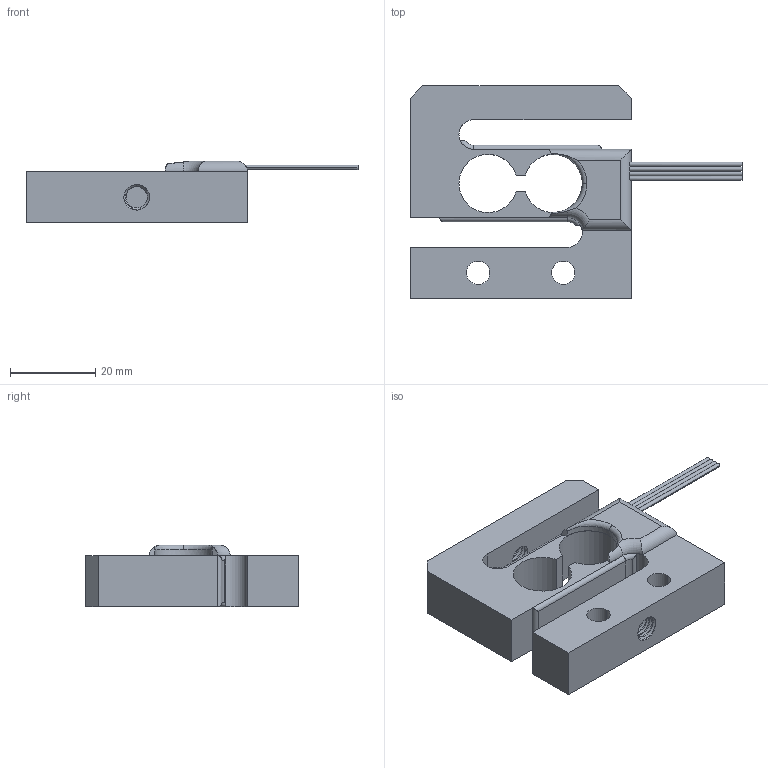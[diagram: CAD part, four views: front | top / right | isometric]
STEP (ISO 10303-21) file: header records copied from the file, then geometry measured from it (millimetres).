
FILE_DESCRIPTION (( 'STEP AP203' ), '1' );
FILE_NAME ('LCS08.STEP', '2024-11-28T08:20:24', ( '' ), ( '' ), 'SwSTEP 2.0', 'SolidWorks 2019', '' );
FILE_SCHEMA (( 'CONFIG_CONTROL_DESIGN' ));
Length unit declared in the file: millimetre
Products named in the file (1): LCS08
Bounding box: 78 x 50 x 14.5 mm (x, y, z)
Volume: 20763.7 mm3; surface area: 12296.4 mm2
Topology: 4 solids, 4 shells, 132 faces, 340 edges, 222 vertices
Faces by surface type: cylinder 79, plane 34, torus 7, cone 6, bspline 6
Entity records: 9102 total; most frequent: CARTESIAN_POINT 6067, ORIENTED_EDGE 680, DIRECTION 551, EDGE_CURVE 340, VERTEX_POINT 222, AXIS2_PLACEMENT_3D 202, EDGE_LOOP 148, LINE 147
